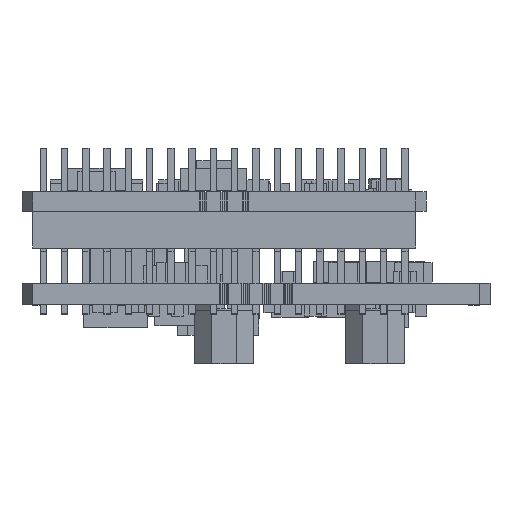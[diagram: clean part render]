
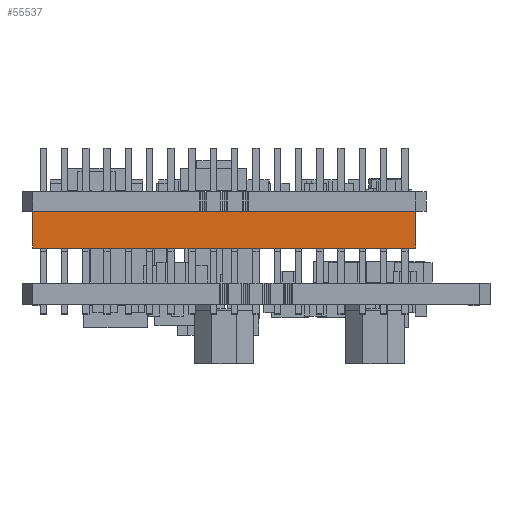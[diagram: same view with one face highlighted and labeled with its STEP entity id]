
A CAD part, front view. The second image highlights one B-rep face of the part: STEP entity #55537.
In plain terms, the highlighted planar face has unit normal (0, -1, 0).
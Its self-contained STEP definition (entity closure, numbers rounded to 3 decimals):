
#55368 = PLANE('',#55369);
#55369 = AXIS2_PLACEMENT_3D('',#55370,#55371,#55372);
#55370 = CARTESIAN_POINT('',(-9.,-0.625,0.));
#55371 = DIRECTION('',(-1.,0.,0.));
#55372 = DIRECTION('',(0.,1.,0.));
#55396 = PLANE('',#55397);
#55397 = AXIS2_PLACEMENT_3D('',#55398,#55399,#55400);
#55398 = CARTESIAN_POINT('',(-9.,0.625,1.7));
#55399 = DIRECTION('',(0.,0.,1.));
#55400 = DIRECTION('',(1.,0.,0.));
#55424 = PLANE('',#55425);
#55425 = AXIS2_PLACEMENT_3D('',#55426,#55427,#55428);
#55426 = CARTESIAN_POINT('',(9.,0.625,0.));
#55427 = DIRECTION('',(1.,0.,0.));
#55428 = DIRECTION('',(0.,-1.,0.));
#55450 = PLANE('',#55451);
#55451 = AXIS2_PLACEMENT_3D('',#55452,#55453,#55454);
#55452 = CARTESIAN_POINT('',(-9.,0.625,0.));
#55453 = DIRECTION('',(0.,0.,1.));
#55454 = DIRECTION('',(1.,0.,0.));
#55467 = VERTEX_POINT('',#55468);
#55468 = CARTESIAN_POINT('',(9.,-0.625,1.7));
#55489 = EDGE_CURVE('',#55490,#55467,#55492,.T.);
#55490 = VERTEX_POINT('',#55491);
#55491 = CARTESIAN_POINT('',(9.,-0.625,0.));
#55492 = SURFACE_CURVE('',#55493,(#55497,#55504),.PCURVE_S1.);
#55493 = LINE('',#55494,#55495);
#55494 = CARTESIAN_POINT('',(9.,-0.625,0.));
#55495 = VECTOR('',#55496,1.);
#55496 = DIRECTION('',(0.,0.,1.));
#55497 = PCURVE('',#55424,#55498);
#55498 = DEFINITIONAL_REPRESENTATION('',(#55499),#55503);
#55499 = LINE('',#55500,#55501);
#55500 = CARTESIAN_POINT('',(1.25,0.));
#55501 = VECTOR('',#55502,1.);
#55502 = DIRECTION('',(0.,-1.));
#55503 = ( GEOMETRIC_REPRESENTATION_CONTEXT(2) 
PARAMETRIC_REPRESENTATION_CONTEXT() REPRESENTATION_CONTEXT('2D SPACE',''
  ) );
#55504 = PCURVE('',#55505,#55510);
#55505 = PLANE('',#55506);
#55506 = AXIS2_PLACEMENT_3D('',#55507,#55508,#55509);
#55507 = CARTESIAN_POINT('',(9.,-0.625,0.));
#55508 = DIRECTION('',(0.,-1.,0.));
#55509 = DIRECTION('',(-1.,0.,0.));
#55510 = DEFINITIONAL_REPRESENTATION('',(#55511),#55515);
#55511 = LINE('',#55512,#55513);
#55512 = CARTESIAN_POINT('',(0.,0.));
#55513 = VECTOR('',#55514,1.);
#55514 = DIRECTION('',(0.,-1.));
#55515 = ( GEOMETRIC_REPRESENTATION_CONTEXT(2) 
PARAMETRIC_REPRESENTATION_CONTEXT() REPRESENTATION_CONTEXT('2D SPACE',''
  ) );
#55537 = ADVANCED_FACE('',(#55538),#55505,.T.);
#55538 = FACE_BOUND('',#55539,.T.);
#55539 = EDGE_LOOP('',(#55540,#55541,#55564,#55587));
#55540 = ORIENTED_EDGE('',*,*,#55489,.T.);
#55541 = ORIENTED_EDGE('',*,*,#55542,.T.);
#55542 = EDGE_CURVE('',#55467,#55543,#55545,.T.);
#55543 = VERTEX_POINT('',#55544);
#55544 = CARTESIAN_POINT('',(-9.,-0.625,1.7));
#55545 = SURFACE_CURVE('',#55546,(#55550,#55557),.PCURVE_S1.);
#55546 = LINE('',#55547,#55548);
#55547 = CARTESIAN_POINT('',(9.,-0.625,1.7));
#55548 = VECTOR('',#55549,1.);
#55549 = DIRECTION('',(-1.,0.,0.));
#55550 = PCURVE('',#55505,#55551);
#55551 = DEFINITIONAL_REPRESENTATION('',(#55552),#55556);
#55552 = LINE('',#55553,#55554);
#55553 = CARTESIAN_POINT('',(0.,-1.7));
#55554 = VECTOR('',#55555,1.);
#55555 = DIRECTION('',(1.,0.));
#55556 = ( GEOMETRIC_REPRESENTATION_CONTEXT(2) 
PARAMETRIC_REPRESENTATION_CONTEXT() REPRESENTATION_CONTEXT('2D SPACE',''
  ) );
#55557 = PCURVE('',#55396,#55558);
#55558 = DEFINITIONAL_REPRESENTATION('',(#55559),#55563);
#55559 = LINE('',#55560,#55561);
#55560 = CARTESIAN_POINT('',(18.,-1.25));
#55561 = VECTOR('',#55562,1.);
#55562 = DIRECTION('',(-1.,0.));
#55563 = ( GEOMETRIC_REPRESENTATION_CONTEXT(2) 
PARAMETRIC_REPRESENTATION_CONTEXT() REPRESENTATION_CONTEXT('2D SPACE',''
  ) );
#55564 = ORIENTED_EDGE('',*,*,#55565,.F.);
#55565 = EDGE_CURVE('',#55566,#55543,#55568,.T.);
#55566 = VERTEX_POINT('',#55567);
#55567 = CARTESIAN_POINT('',(-9.,-0.625,0.));
#55568 = SURFACE_CURVE('',#55569,(#55573,#55580),.PCURVE_S1.);
#55569 = LINE('',#55570,#55571);
#55570 = CARTESIAN_POINT('',(-9.,-0.625,0.));
#55571 = VECTOR('',#55572,1.);
#55572 = DIRECTION('',(0.,0.,1.));
#55573 = PCURVE('',#55505,#55574);
#55574 = DEFINITIONAL_REPRESENTATION('',(#55575),#55579);
#55575 = LINE('',#55576,#55577);
#55576 = CARTESIAN_POINT('',(18.,0.));
#55577 = VECTOR('',#55578,1.);
#55578 = DIRECTION('',(0.,-1.));
#55579 = ( GEOMETRIC_REPRESENTATION_CONTEXT(2) 
PARAMETRIC_REPRESENTATION_CONTEXT() REPRESENTATION_CONTEXT('2D SPACE',''
  ) );
#55580 = PCURVE('',#55368,#55581);
#55581 = DEFINITIONAL_REPRESENTATION('',(#55582),#55586);
#55582 = LINE('',#55583,#55584);
#55583 = CARTESIAN_POINT('',(0.,0.));
#55584 = VECTOR('',#55585,1.);
#55585 = DIRECTION('',(0.,-1.));
#55586 = ( GEOMETRIC_REPRESENTATION_CONTEXT(2) 
PARAMETRIC_REPRESENTATION_CONTEXT() REPRESENTATION_CONTEXT('2D SPACE',''
  ) );
#55587 = ORIENTED_EDGE('',*,*,#55588,.F.);
#55588 = EDGE_CURVE('',#55490,#55566,#55589,.T.);
#55589 = SURFACE_CURVE('',#55590,(#55594,#55601),.PCURVE_S1.);
#55590 = LINE('',#55591,#55592);
#55591 = CARTESIAN_POINT('',(9.,-0.625,0.));
#55592 = VECTOR('',#55593,1.);
#55593 = DIRECTION('',(-1.,0.,0.));
#55594 = PCURVE('',#55505,#55595);
#55595 = DEFINITIONAL_REPRESENTATION('',(#55596),#55600);
#55596 = LINE('',#55597,#55598);
#55597 = CARTESIAN_POINT('',(0.,0.));
#55598 = VECTOR('',#55599,1.);
#55599 = DIRECTION('',(1.,0.));
#55600 = ( GEOMETRIC_REPRESENTATION_CONTEXT(2) 
PARAMETRIC_REPRESENTATION_CONTEXT() REPRESENTATION_CONTEXT('2D SPACE',''
  ) );
#55601 = PCURVE('',#55450,#55602);
#55602 = DEFINITIONAL_REPRESENTATION('',(#55603),#55607);
#55603 = LINE('',#55604,#55605);
#55604 = CARTESIAN_POINT('',(18.,-1.25));
#55605 = VECTOR('',#55606,1.);
#55606 = DIRECTION('',(-1.,0.));
#55607 = ( GEOMETRIC_REPRESENTATION_CONTEXT(2) 
PARAMETRIC_REPRESENTATION_CONTEXT() REPRESENTATION_CONTEXT('2D SPACE',''
  ) );
